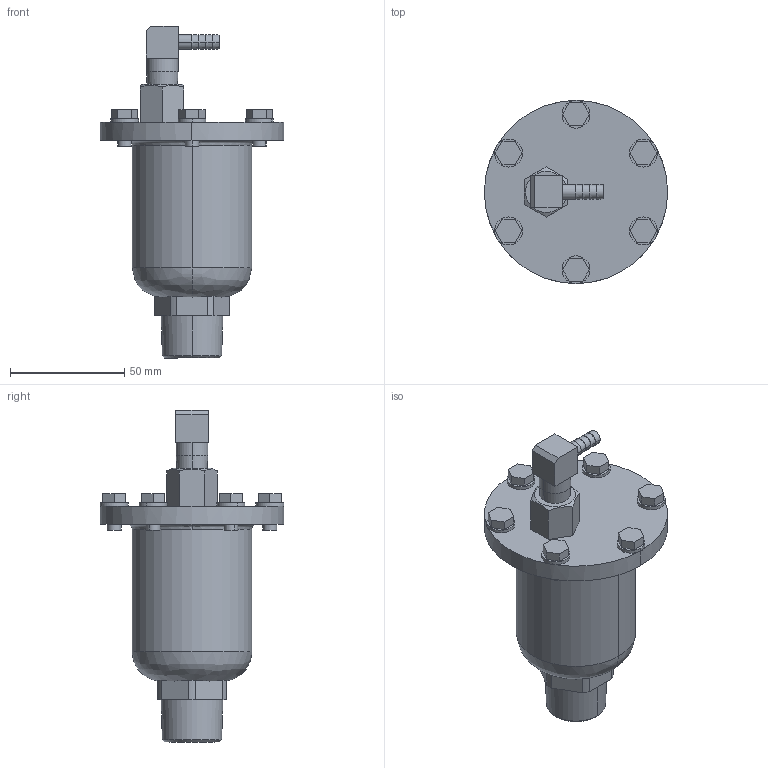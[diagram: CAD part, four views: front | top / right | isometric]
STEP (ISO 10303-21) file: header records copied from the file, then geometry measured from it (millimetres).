
FILE_DESCRIPTION( (''), '2;1');
FILE_NAME ('PC1027.10420.TA-16 20A_2821.stp','2025-07-29T11:30:59',(''),(''),'spGate 20.6.3 (****-****-****-****)','','');
FILE_SCHEMA (('AUTOMOTIVE_DESIGN'));
Length unit declared in the file: millimetre
Products named in the file (2): Assembly; TA-16L 20A
Assembly tree (1 placements, depth 2):
  Assembly
    TA-16L 20A
Bounding box: 80 x 80.2 x 145 mm (x, y, z)
Volume: 209895.5 mm3; surface area: 29189.2 mm2
Topology: 1 solids, 1 shells, 152 faces, 362 edges, 235 vertices
Faces by surface type: plane 90, cylinder 42, bspline 20
Entity records: 7605 total; most frequent: CARTESIAN_POINT 1169, ORIENTED_EDGE 724, DIRECTION 699, COLOUR_RGB 515, PRESENTATION_STYLE_ASSIGNMENT 515, STYLED_ITEM 515, EDGE_CURVE 362, DRAUGHTING_PRE_DEFINED_CURVE_FONT 362
